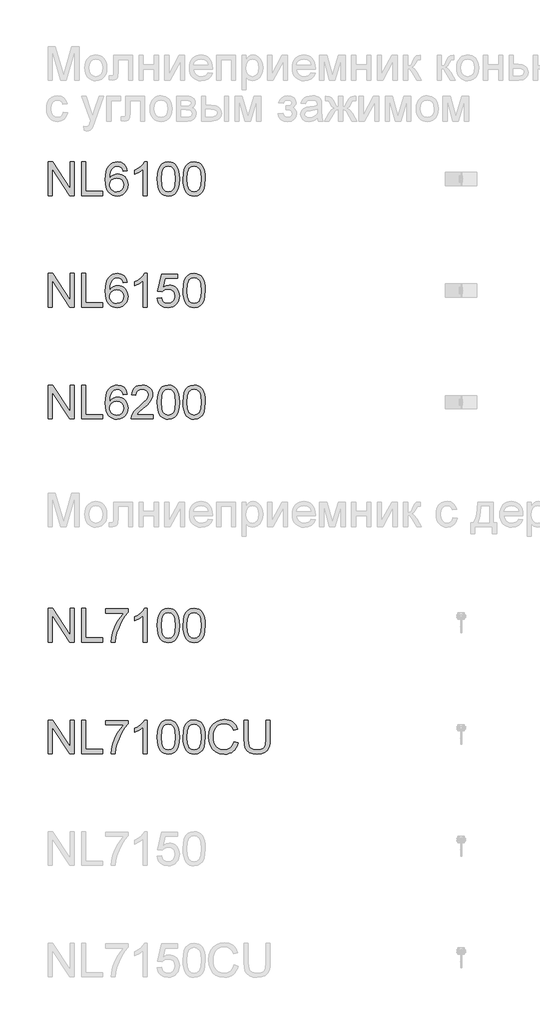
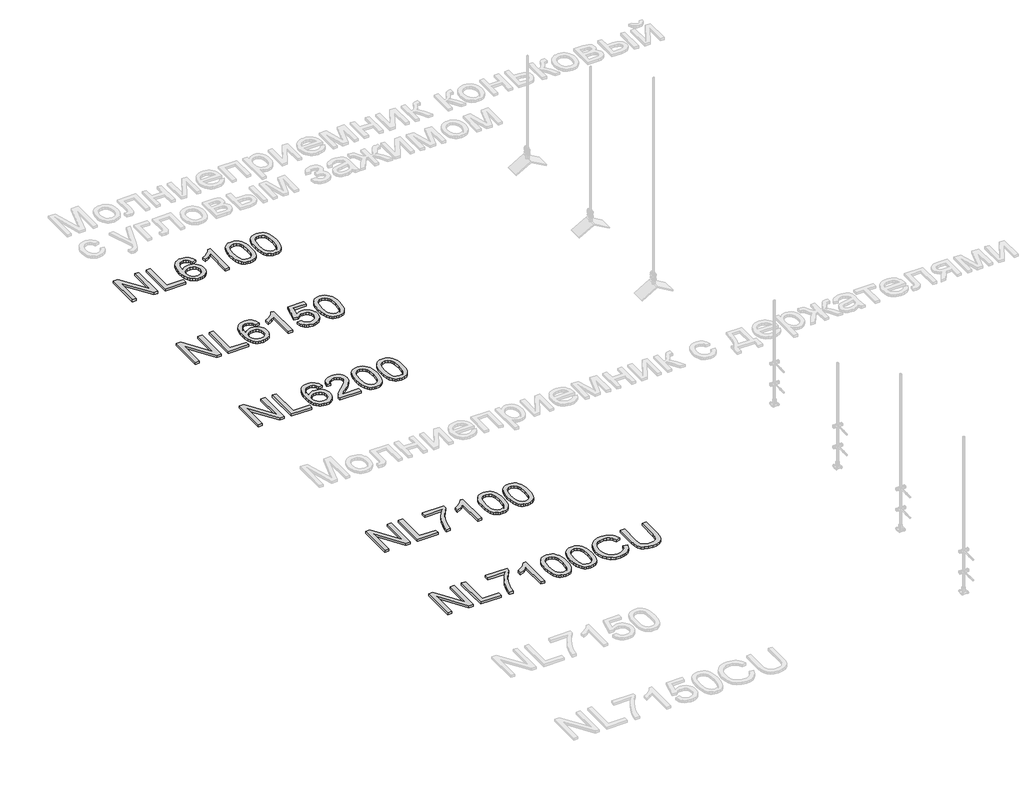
# One storey, part 67 of 124: 5 proxies.
"""IFC4 building model written with IfcOpenShell, lengths in millimetres."""

import ifcopenshell
import ifcopenshell.guid

model = None  # the IFC model being written
_history = None  # IfcOwnerHistory: only IFC2X3 demands one
_inside = {}  # id of a spatial element -> (the spatial element, [elements in it])
_under = {}  # id of a project, library or spatial element -> (it, [spatial elements below it])
_declared = {}  # id of a project -> (the project, [libraries it declares])
_typed = {}  # id of a type object -> (the type object, [elements of that type])
_made_of = {}  # id of a material, layer set ... -> (it, [elements and type objects made of it])


def new_model(schema):
    """Start an empty IFC model of exactly this schema.

    Asked for "IFC4X3", IfcOpenShell would pick the latest addendum, in which some entities
    have other attributes; the version numbers below select the first issue.
    IFC2X3 requires an IfcOwnerHistory on every rooted entity: one is made here for all.
    """
    global model, _history
    if schema == "IFC4X3":
        model = ifcopenshell.file(schema_version=(4, 3, 0, 0))
    else:
        model = ifcopenshell.file(schema=schema)
    _inside.clear()
    _under.clear()
    _declared.clear()
    _typed.clear()
    _made_of.clear()
    _history = None
    if model.schema == "IFC2X3":
        org = make("IfcOrganization", Name="unknown")
        user = make(
            "IfcPersonAndOrganization",
            ThePerson=make("IfcPerson", FamilyName="unknown"),
            TheOrganization=org,
        )
        app = make(
            "IfcApplication",
            ApplicationDeveloper=org,
            Version="unknown",
            ApplicationFullName="unknown",
            ApplicationIdentifier="unknown",
        )
        _history = make(
            "IfcOwnerHistory",
            OwningUser=user,
            OwningApplication=app,
            ChangeAction="ADDED",
            CreationDate=0,
        )
    return model


def make(cls, **values):
    """One entity of the class cls with the attributes given. An attribute that is None is left unset."""
    return model.create_entity(
        cls, **{name: value for name, value in values.items() if value is not None}
    )


def rooted(cls, **values):
    """An entity with a GlobalId (a new one), such as an element, a storey or a relation."""
    return make(cls, GlobalId=ifcopenshell.guid.new(), OwnerHistory=_history, **values)


def si_unit(unit_type, name, prefix=None):
    """IfcSIUnit, for example si_unit("LENGTHUNIT", "METRE", prefix="MILLI")."""
    return make("IfcSIUnit", UnitType=unit_type, Prefix=prefix, Name=name)


def assignment(units):
    """IfcUnitAssignment: the units of a project."""
    return None if units is None else make("IfcUnitAssignment", Units=units)


def point(xyz):
    """IfcCartesianPoint."""
    return None if xyz is None else make("IfcCartesianPoint", Coordinates=xyz)


def direction(xyz):
    """IfcDirection."""
    return None if xyz is None else make("IfcDirection", DirectionRatios=xyz)


def frame(location, z_axis=None, x_axis=None):
    """IfcAxis2Placement3D, a coordinate frame: its origin and axes. An axis left out is left unset."""
    return make(
        "IfcAxis2Placement3D",
        Location=point(location),
        Axis=direction(z_axis),
        RefDirection=direction(x_axis),
    )


def origin():
    """The frame at (0, 0, 0) with its axes left unset."""
    return frame((0.0, 0.0, 0.0))


def origin_with_axes():
    """The frame at (0, 0, 0) with the z axis (0, 0, 1) and the x axis (1, 0, 0) written out."""
    return frame((0.0, 0.0, 0.0), z_axis=(0.0, 0.0, 1.0), x_axis=(1.0, 0.0, 0.0))


def place(relative_to, where):
    """IfcLocalPlacement: puts the frame where relative to a parent placement (None: the world)."""
    return make(
        "IfcLocalPlacement", PlacementRelTo=relative_to, RelativePlacement=where
    )


def context(
    kind, dimensions, precision=None, world=None, true_north=None, identifier=None
):
    """IfcGeometricRepresentationContext, for example the 3D "Model" context."""
    return make(
        "IfcGeometricRepresentationContext",
        ContextIdentifier=identifier,
        ContextType=kind,
        CoordinateSpaceDimension=dimensions,
        Precision=precision,
        WorldCoordinateSystem=world,
        TrueNorth=true_north,
    )


def project(units=None, contexts=None):
    """IfcProject with its units and contexts."""
    return rooted(
        "IfcProject",
        Name="project",
        RepresentationContexts=contexts,
        UnitsInContext=assignment(units),
    )


def spatial(cls, under=None, at=None, **own):
    """A site, building, storey or space (cls), placed at a placement, below another one or the project."""
    s = rooted(cls, ObjectPlacement=at, **own)
    if under is not None:
        _under.setdefault(under.id(), (under, []))[1].append(s)
    return s


def polyline(points):
    """IfcPolyline through the points."""
    return make("IfcPolyline", Points=[point(p) for p in points])


def outline(outer, holes=None, kind="AREA"):
    """IfcArbitraryClosedProfileDef: a profile drawn as a closed curve; with holes, ...WithVoids."""
    if holes is None:
        return make("IfcArbitraryClosedProfileDef", ProfileType=kind, OuterCurve=outer)
    return make(
        "IfcArbitraryProfileDefWithVoids",
        ProfileType=kind,
        OuterCurve=outer,
        InnerCurves=holes,
    )


def extrude(swept, where, along, depth):
    """IfcExtrudedAreaSolid: the profile swept, set in the frame where, extruded along a direction by depth."""
    return make(
        "IfcExtrudedAreaSolid",
        SweptArea=swept,
        Position=where,
        ExtrudedDirection=direction(along),
        Depth=depth,
    )


def shape(context_of_items, identifier, shape_type, items):
    """IfcShapeRepresentation: the items that make up one representation, for example the "Body"."""
    return make(
        "IfcShapeRepresentation",
        ContextOfItems=context_of_items,
        RepresentationIdentifier=identifier,
        RepresentationType=shape_type,
        Items=items,
    )


def made_of(thing, what):
    """Note that an element or type object is made of a material, layer set ...; save() writes the relation."""
    if what is not None:
        _made_of.setdefault(what.id(), (what, []))[1].append(thing)
    return thing


def element(
    cls,
    number,
    at=None,
    inside=None,
    cuts=None,
    type_object=None,
    material=None,
    context=None,
    identifier="Body",
    shape_type=None,
    held_by="IfcProductDefinitionShape",
    body=None,
    shapes=None,
    **own,
):
    """One element of the class cls, such as IfcWall. Its Tag is "e" and its number.

    at: its placement. inside: the storey or other place that contains it. cuts: it is an
    opening in that element (IfcRelVoidsElement). A single representation is given by context,
    identifier, shape_type and body (its items); several are given by shapes. held_by: the class
    of the entity that holds the representations. save() writes the other relations.
    """
    e = rooted(cls, Tag="e%d" % number, ObjectPlacement=at, **own)
    if body is not None:
        shapes = [shape(context, identifier, shape_type, body)]
    if shapes is not None:
        e.Representation = make(held_by, Representations=shapes)
    if inside is not None:
        _inside.setdefault(inside.id(), (inside, []))[1].append(e)
    if cuts is not None:
        rooted(
            "IfcRelVoidsElement", RelatingBuildingElement=cuts, RelatedOpeningElement=e
        )
    if type_object is not None:
        _typed.setdefault(type_object.id(), (type_object, []))[1].append(e)
    return made_of(e, material)


def aggregate(whole, parts):
    """IfcRelAggregates: a whole, such as a stair, and the parts it consists of."""
    return rooted("IfcRelAggregates", RelatingObject=whole, RelatedObjects=parts)


def save(model, path):
    """Write the relations noted so far, then the file.

    IfcRelAggregates (storeys below a building ...), IfcRelContainedInSpatialStructure (elements
    in a storey), IfcRelDefinesByType, IfcRelAssociatesMaterial and IfcRelDeclares: one each for
    every whole, place, type object, material and project.
    """
    for whole, parts in _under.values():
        aggregate(whole, parts)
    for where, things in _inside.values():
        rooted(
            "IfcRelContainedInSpatialStructure",
            RelatedElements=things,
            RelatingStructure=where,
        )
    for kind, things in _typed.values():
        rooted("IfcRelDefinesByType", RelatedObjects=things, RelatingType=kind)
    for what, things in _made_of.values():
        rooted("IfcRelAssociatesMaterial", RelatedObjects=things, RelatingMaterial=what)
    for by, libraries in _declared.values():
        rooted("IfcRelDeclares", RelatingContext=by, RelatedDefinitions=libraries)
    model.write(path)


model = new_model("IFC4")

# Units and contexts
model_context = context("Model", 3, world=origin())
ifc_project = project(units=[si_unit("LENGTHUNIT", "METRE", prefix="MILLI")], contexts=[model_context])

# Site, building, storey
site = spatial("IfcSite", under=ifc_project)
building = spatial("IfcBuilding", under=site)
storey = spatial("IfcBuildingStorey", under=building, Name="Этаж 01", Elevation=0.0)

# Proxies
placement = place(None, origin())
element("IfcBuildingElementProxy", 1, Name="300", ObjectType="300", at=placement, inside=storey, context=model_context, shape_type="SweptSolid", body=[
    extrude(outline(polyline([(22499.8220677, -52107.4605888), (22499.8220677, -51806.0916583), (22540.1419344, -51806.0916583), (22697.5954283, -52044.8470732), (22697.5954283, -51806.0916583), (22735.2665446, -51806.0916583), (22735.2665446, -52107.4605888), (22694.9466779, -52107.4605888), (22537.493184, -51868.6315975), (22537.493184, -52107.4605888), (22499.8220677, -52107.4605888)])), origin_with_axes(), (0.0, 0.0, 1.0), 20.0),
    extrude(outline(polyline([(22801.1909981, -52107.4605888), (22801.1909981, -51806.0916583), (22838.8621144, -51806.0916583), (22838.8621144, -52069.7894725), (22989.5465797, -52069.7894725), (22989.5465797, -52107.4605888), (22801.1909981, -52107.4605888)])), origin_with_axes(), (0.0, 0.0, 1.0), 20.0),
    extrude(outline(polyline([(23210.864388, -51886.1427805), (23173.1932717, -51890.85167), (23167.1232187, -51872.1816588), (23158.9194503, -51859.4345476), (23141.8313316, -51847.6807179), (23121.1747575, -51843.7627746), (23103.6635746, -51846.043643), (23087.1824612, -51852.8862481), (23073.0282014, -51867.2980253), (23061.4675097, -51887.1360619), (23053.6592144, -51915.196261), (23050.7621437, -51954.274526), (23065.8728966, -51936.6437814), (23083.9818878, -51924.218567), (23104.0774418, -51916.85173), (23125.1478831, -51914.3961177), (23143.2476773, -51916.0745793), (23159.9495198, -51921.1099641), (23175.2534108, -51929.5022721), (23189.1593503, -51941.2515033), (23200.7154434, -51955.658682), (23208.9697957, -51972.0248322), (23213.9224071, -51990.3499541), (23215.5732775, -52010.6340476), (23212.4646747, -52037.6089949), (23203.1388661, -52062.6157736), (23188.368404, -52083.8241706), (23168.9258405, -52099.4039731), (23145.6940925, -52108.978102), (23119.5560768, -52112.1694783), (23097.0991802, -52110.0541568), (23076.817386, -52103.7081924), (23058.710694, -52093.1315851), (23042.7791044, -52078.3243348), (23029.7905707, -52058.6610421), (23020.5130466, -52033.5163077), (23014.9465322, -52002.8901316), (23013.0910274, -51966.7825138), (23015.1511665, -51926.3016988), (23021.3315841, -51891.7529809), (23031.6322799, -51863.1363602), (23046.0532541, -51840.4518367), (23061.6836404, -51825.4192586), (23079.8064272, -51814.6817029), (23100.4216145, -51808.2391695), (23123.5292023, -51806.0916583), (23156.5833996, -51811.4075532), (23183.0525091, -51827.3552376), (23201.5937617, -51852.683913), (23210.864388, -51886.1427805)]), holes=[polyline([(23050.7621437, -52010.0454364), (23052.9418445, -52026.738082), (23059.480947, -52042.6765694), (23069.63449, -52056.3801737), (23082.6575127, -52066.3681699), (23098.3752709, -52072.465814), (23116.6130208, -52074.498362), (23141.4726466, -52070.2861132), (23161.0163776, -52057.6493666), (23173.6807153, -52037.7837389), (23177.9021612, -52011.8848464), (23173.7358976, -51987.0252206), (23161.2371068, -51968.0701008), (23141.362282, -51956.0679507), (23115.0679164, -51952.067234), (23090.2450788, -51956.0679507), (23069.4873372, -51968.0701008), (23055.4434421, -51986.5653681), (23050.7621437, -52010.0454364)])]), origin_with_axes(), (0.0, 0.0, 1.0), 20.0),
    extrude(outline(polyline([(23389.8021904, -52107.4605888), (23352.1310741, -52107.4605888), (23352.1310741, -51872.604723), (23316.4465206, -51898.0253689), (23276.7888415, -51917.0448681), (23276.7888415, -51881.4338909), (23306.375751, -51865.3390536), (23332.007929, -51846.1907958), (23352.2138476, -51825.8285274), (23365.5219787, -51806.0916583), (23389.8021904, -51806.0916583), (23389.8021904, -52107.4605888)])), origin_with_axes(), (0.0, 0.0, 1.0), 20.0),
    extrude(outline(polyline([(23479.2710917, -51959.2041447), (23482.0394037, -51910.9656181), (23490.3443397, -51872.4943585), (23504.1031263, -51843.2017546), (23523.2329901, -51822.4991953), (23547.8718867, -51810.1935426), (23578.157772, -51806.0916583), (23601.3711259, -51808.5196795), (23622.1564586, -51815.803743), (23639.5388829, -51827.6587403), (23652.5435114, -51843.7995628), (23662.3659607, -51864.0882549), (23670.2018471, -51888.3868606), (23675.333801, -51919.242963), (23677.0444523, -51959.2041447), (23674.3037314, -52007.1667598), (23666.0815688, -52045.546049), (23652.4055556, -52074.866244), (23633.303283, -52095.6515767), (23608.6092041, -52108.0400029), (23578.157772, -52112.1694783), (23557.4092274, -52110.3760536), (23539.0151277, -52104.9957794), (23522.9754727, -52096.0286558), (23509.2902625, -52083.4746827), (23496.1568752, -52060.7809621), (23486.7758844, -52032.5046323), (23481.1472898, -51998.6456931), (23479.2710917, -51959.2041447)]), holes=[polyline([(23516.942208, -51959.1305683), (23521.3567919, -52018.3871607), (23526.8750218, -52038.6551594), (23534.6005437, -52052.6829597), (23554.3190187, -52069.0445114), (23578.157772, -52074.498362), (23601.9965252, -52069.0261173), (23621.7150002, -52052.6093833), (23629.4405221, -52038.5585903), (23634.958752, -52018.2951902), (23639.373336, -51959.1305683), (23635.1059048, -51901.2075482), (23629.7716159, -51881.0062281), (23622.3036114, -51866.6450347), (23602.6219246, -51849.4833397), (23577.7163136, -51843.7627746), (23554.1350777, -51848.802758), (23535.1891549, -51863.922708), (23527.2061156, -51879.5576928), (23521.5039447, -51900.6373311), (23516.942208, -51959.1305683)])]), origin_with_axes(), (0.0, 0.0, 1.0), 20.0),
    extrude(outline(polyline([(23710.006679, -51959.2041447), (23712.774991, -51910.9656181), (23721.0799271, -51872.4943585), (23734.8387137, -51843.2017546), (23753.9685775, -51822.4991953), (23778.6074741, -51810.1935426), (23808.8933593, -51806.0916583), (23832.1067132, -51808.5196795), (23852.892046, -51815.803743), (23870.2744702, -51827.6587403), (23883.2790988, -51843.7995628), (23893.101548, -51864.0882549), (23900.9374345, -51888.3868606), (23906.0693884, -51919.242963), (23907.7800396, -51959.2041447), (23905.0393188, -52007.1667598), (23896.8171562, -52045.546049), (23883.141143, -52074.866244), (23864.0388704, -52095.6515767), (23839.3447915, -52108.0400029), (23808.8933593, -52112.1694783), (23788.1448148, -52110.3760536), (23769.750715, -52104.9957794), (23753.7110601, -52096.0286558), (23740.0258498, -52083.4746827), (23726.8924626, -52060.7809621), (23717.5114717, -52032.5046323), (23711.8828772, -51998.6456931), (23710.006679, -51959.2041447)]), holes=[polyline([(23747.6777953, -51959.1305683), (23752.0923793, -52018.3871607), (23757.6106092, -52038.6551594), (23765.3361311, -52052.6829597), (23785.054606, -52069.0445114), (23808.8933593, -52074.498362), (23832.7321126, -52069.0261173), (23852.4505876, -52052.6093833), (23860.1761095, -52038.5585903), (23865.6943394, -52018.2951902), (23870.1089233, -51959.1305683), (23865.8414922, -51901.2075482), (23860.5072033, -51881.0062281), (23853.0391988, -51866.6450347), (23833.357512, -51849.4833397), (23808.4519009, -51843.7627746), (23784.870665, -51848.802758), (23765.9247423, -51863.922708), (23757.941703, -51879.5576928), (23752.2395321, -51900.6373311), (23747.6777953, -51959.1305683)])]), origin_with_axes(), (0.0, 0.0, 1.0), 20.0),
])
element("IfcBuildingElementProxy", 2, Name="300", ObjectType="300", at=placement, inside=storey, context=model_context, shape_type="SweptSolid", body=[
    extrude(outline(polyline([(22499.8220677, -53107.4605888), (22499.8220677, -52806.0916583), (22540.1419344, -52806.0916583), (22697.5954283, -53044.8470732), (22697.5954283, -52806.0916583), (22735.2665446, -52806.0916583), (22735.2665446, -53107.4605888), (22694.9466779, -53107.4605888), (22537.493184, -52868.6315975), (22537.493184, -53107.4605888), (22499.8220677, -53107.4605888)])), origin_with_axes(), (0.0, 0.0, 1.0), 20.0),
    extrude(outline(polyline([(22801.1909981, -53107.4605888), (22801.1909981, -52806.0916583), (22838.8621144, -52806.0916583), (22838.8621144, -53069.7894725), (22989.5465797, -53069.7894725), (22989.5465797, -53107.4605888), (22801.1909981, -53107.4605888)])), origin_with_axes(), (0.0, 0.0, 1.0), 20.0),
    extrude(outline(polyline([(23210.864388, -52886.1427805), (23173.1932717, -52890.85167), (23167.1232187, -52872.1816588), (23158.9194503, -52859.4345476), (23141.8313316, -52847.6807179), (23121.1747575, -52843.7627746), (23103.6635746, -52846.043643), (23087.1824612, -52852.8862481), (23073.0282014, -52867.2980253), (23061.4675097, -52887.1360619), (23053.6592144, -52915.196261), (23050.7621437, -52954.274526), (23065.8728966, -52936.6437814), (23083.9818878, -52924.218567), (23104.0774418, -52916.85173), (23125.1478831, -52914.3961177), (23143.2476773, -52916.0745793), (23159.9495198, -52921.1099641), (23175.2534108, -52929.5022721), (23189.1593503, -52941.2515033), (23200.7154434, -52955.658682), (23208.9697957, -52972.0248322), (23213.9224071, -52990.3499541), (23215.5732775, -53010.6340476), (23212.4646747, -53037.6089949), (23203.1388661, -53062.6157736), (23188.368404, -53083.8241706), (23168.9258405, -53099.4039731), (23145.6940925, -53108.978102), (23119.5560768, -53112.1694783), (23097.0991802, -53110.0541568), (23076.817386, -53103.7081924), (23058.710694, -53093.1315851), (23042.7791044, -53078.3243348), (23029.7905707, -53058.6610421), (23020.5130466, -53033.5163077), (23014.9465322, -53002.8901316), (23013.0910274, -52966.7825138), (23015.1511665, -52926.3016988), (23021.3315841, -52891.7529809), (23031.6322799, -52863.1363602), (23046.0532541, -52840.4518367), (23061.6836404, -52825.4192586), (23079.8064272, -52814.6817029), (23100.4216145, -52808.2391695), (23123.5292023, -52806.0916583), (23156.5833996, -52811.4075532), (23183.0525091, -52827.3552376), (23201.5937617, -52852.683913), (23210.864388, -52886.1427805)]), holes=[polyline([(23050.7621437, -53010.0454364), (23052.9418445, -53026.738082), (23059.480947, -53042.6765694), (23069.63449, -53056.3801737), (23082.6575127, -53066.3681699), (23098.3752709, -53072.465814), (23116.6130208, -53074.498362), (23141.4726466, -53070.2861132), (23161.0163776, -53057.6493666), (23173.6807153, -53037.7837389), (23177.9021612, -53011.8848464), (23173.7358976, -52987.0252206), (23161.2371068, -52968.0701008), (23141.362282, -52956.0679507), (23115.0679164, -52952.067234), (23090.2450788, -52956.0679507), (23069.4873372, -52968.0701008), (23055.4434421, -52986.5653681), (23050.7621437, -53010.0454364)])]), origin_with_axes(), (0.0, 0.0, 1.0), 20.0),
    extrude(outline(polyline([(23389.8021904, -53107.4605888), (23352.1310741, -53107.4605888), (23352.1310741, -52872.604723), (23316.4465206, -52898.0253689), (23276.7888415, -52917.0448681), (23276.7888415, -52881.4338909), (23306.375751, -52865.3390536), (23332.007929, -52846.1907958), (23352.2138476, -52825.8285274), (23365.5219787, -52806.0916583), (23389.8021904, -52806.0916583), (23389.8021904, -53107.4605888)])), origin_with_axes(), (0.0, 0.0, 1.0), 20.0),
    extrude(outline(polyline([(23479.2710917, -53027.4094666), (23516.942208, -53022.7005771), (23523.8583895, -53045.3161227), (23535.9249189, -53061.5121276), (23553.086614, -53071.2518034), (23575.2882924, -53074.498362), (23602.2908308, -53069.9826105), (23622.5243406, -53056.435356), (23635.1610871, -53035.4200971), (23639.373336, -53008.5003321), (23635.4278016, -52983.1532626), (23623.5911984, -52963.7658815), (23603.7715559, -52951.4602287), (23575.8769036, -52947.3583445), (23557.6023655, -52948.9954193), (23542.8043122, -52953.906644), (23521.6510975, -52970.9027922), (23483.9799812, -52966.1939026), (23516.942208, -52810.8005479), (23662.9177836, -52810.8005479), (23662.9177836, -52848.4716642), (23547.4028372, -52848.4716642), (23531.2896058, -52931.4658423), (23558.2001737, -52915.1318817), (23586.3983286, -52909.6872282), (23604.7441439, -52911.3748868), (23621.5954385, -52916.4378628), (23636.9522126, -52924.876156), (23650.814466, -52936.6897666), (23662.290085, -52951.1567261), (23670.4869557, -52967.555066), (23675.4050781, -52985.8847864), (23677.0444523, -53006.1458873), (23671.1399462, -53043.8170036), (23663.7593137, -53060.6108167), (23653.4264282, -53076.0434664), (23637.7730493, -53091.8485966), (23619.5077082, -53103.1379753), (23598.630405, -53109.9116026), (23575.1411396, -53112.1694783), (23538.1414079, -53106.3661398), (23522.4627371, -53099.1119667), (23508.6648631, -53088.9561244), (23497.1846456, -53076.4044506), (23488.4589445, -53061.962783), (23479.2710917, -53027.4094666)])), origin_with_axes(), (0.0, 0.0, 1.0), 20.0),
    extrude(outline(polyline([(23710.006679, -52959.2041447), (23712.774991, -52910.9656181), (23721.0799271, -52872.4943585), (23734.8387137, -52843.2017546), (23753.9685775, -52822.4991953), (23778.6074741, -52810.1935426), (23808.8933593, -52806.0916583), (23832.1067132, -52808.5196795), (23852.892046, -52815.803743), (23870.2744702, -52827.6587403), (23883.2790988, -52843.7995628), (23893.101548, -52864.0882549), (23900.9374345, -52888.3868606), (23906.0693884, -52919.242963), (23907.7800396, -52959.2041447), (23905.0393188, -53007.1667598), (23896.8171562, -53045.546049), (23883.141143, -53074.866244), (23864.0388704, -53095.6515767), (23839.3447915, -53108.0400029), (23808.8933593, -53112.1694783), (23788.1448148, -53110.3760536), (23769.750715, -53104.9957794), (23753.7110601, -53096.0286558), (23740.0258498, -53083.4746827), (23726.8924626, -53060.7809621), (23717.5114717, -53032.5046323), (23711.8828772, -52998.6456931), (23710.006679, -52959.2041447)]), holes=[polyline([(23747.6777953, -52959.1305683), (23752.0923793, -53018.3871607), (23757.6106092, -53038.6551594), (23765.3361311, -53052.6829597), (23785.054606, -53069.0445114), (23808.8933593, -53074.498362), (23832.7321126, -53069.0261173), (23852.4505876, -53052.6093833), (23860.1761095, -53038.5585903), (23865.6943394, -53018.2951902), (23870.1089233, -52959.1305683), (23865.8414922, -52901.2075482), (23860.5072033, -52881.0062281), (23853.0391988, -52866.6450347), (23833.357512, -52849.4833397), (23808.4519009, -52843.7627746), (23784.870665, -52848.802758), (23765.9247423, -52863.922708), (23757.941703, -52879.5576928), (23752.2395321, -52900.6373311), (23747.6777953, -52959.1305683)])]), origin_with_axes(), (0.0, 0.0, 1.0), 20.0),
])
element("IfcBuildingElementProxy", 3, Name="300", ObjectType="300", at=placement, inside=storey, context=model_context, shape_type="SweptSolid", body=[
    extrude(outline(polyline([(22499.8220677, -54107.4605888), (22499.8220677, -53806.0916583), (22540.1419344, -53806.0916583), (22697.5954283, -54044.8470732), (22697.5954283, -53806.0916583), (22735.2665446, -53806.0916583), (22735.2665446, -54107.4605888), (22694.9466779, -54107.4605888), (22537.493184, -53868.6315975), (22537.493184, -54107.4605888), (22499.8220677, -54107.4605888)])), origin_with_axes(), (0.0, 0.0, 1.0), 20.0),
    extrude(outline(polyline([(22801.1909981, -54107.4605888), (22801.1909981, -53806.0916583), (22838.8621144, -53806.0916583), (22838.8621144, -54069.7894725), (22989.5465797, -54069.7894725), (22989.5465797, -54107.4605888), (22801.1909981, -54107.4605888)])), origin_with_axes(), (0.0, 0.0, 1.0), 20.0),
    extrude(outline(polyline([(23210.864388, -53886.1427805), (23173.1932717, -53890.85167), (23167.1232187, -53872.1816588), (23158.9194503, -53859.4345476), (23141.8313316, -53847.6807179), (23121.1747575, -53843.7627746), (23103.6635746, -53846.043643), (23087.1824612, -53852.8862481), (23073.0282014, -53867.2980253), (23061.4675097, -53887.1360619), (23053.6592144, -53915.196261), (23050.7621437, -53954.274526), (23065.8728966, -53936.6437814), (23083.9818878, -53924.218567), (23104.0774418, -53916.85173), (23125.1478831, -53914.3961177), (23143.2476773, -53916.0745793), (23159.9495198, -53921.1099641), (23175.2534108, -53929.5022721), (23189.1593503, -53941.2515033), (23200.7154434, -53955.658682), (23208.9697957, -53972.0248322), (23213.9224071, -53990.3499541), (23215.5732775, -54010.6340476), (23212.4646747, -54037.6089949), (23203.1388661, -54062.6157736), (23188.368404, -54083.8241706), (23168.9258405, -54099.4039731), (23145.6940925, -54108.978102), (23119.5560768, -54112.1694783), (23097.0991802, -54110.0541568), (23076.817386, -54103.7081924), (23058.710694, -54093.1315851), (23042.7791044, -54078.3243348), (23029.7905707, -54058.6610421), (23020.5130466, -54033.5163077), (23014.9465322, -54002.8901316), (23013.0910274, -53966.7825138), (23015.1511665, -53926.3016988), (23021.3315841, -53891.7529809), (23031.6322799, -53863.1363602), (23046.0532541, -53840.4518367), (23061.6836404, -53825.4192586), (23079.8064272, -53814.6817029), (23100.4216145, -53808.2391695), (23123.5292023, -53806.0916583), (23156.5833996, -53811.4075532), (23183.0525091, -53827.3552376), (23201.5937617, -53852.683913), (23210.864388, -53886.1427805)]), holes=[polyline([(23050.7621437, -54010.0454364), (23052.9418445, -54026.738082), (23059.480947, -54042.6765694), (23069.63449, -54056.3801737), (23082.6575127, -54066.3681699), (23098.3752709, -54072.465814), (23116.6130208, -54074.498362), (23141.4726466, -54070.2861132), (23161.0163776, -54057.6493666), (23173.6807153, -54037.7837389), (23177.9021612, -54011.8848464), (23173.7358976, -53987.0252206), (23161.2371068, -53968.0701008), (23141.362282, -53956.0679507), (23115.0679164, -53952.067234), (23090.2450788, -53956.0679507), (23069.4873372, -53968.0701008), (23055.4434421, -53986.5653681), (23050.7621437, -54010.0454364)])]), origin_with_axes(), (0.0, 0.0, 1.0), 20.0),
    extrude(outline(polyline([(23441.5999753, -54069.7894725), (23441.5999753, -54107.4605888), (23243.8266147, -54107.4605888), (23247.8733167, -54081.4881199), (23257.1623371, -54061.1902308), (23270.7555768, -54041.499347), (23290.4188694, -54020.8887583), (23317.9180486, -53997.8317542), (23358.569009, -53961.7241364), (23382.9595853, -53935.0710858), (23395.1548735, -53913.4396245), (23399.2199695, -53892.3967744), (23395.3847997, -53873.5336251), (23383.8792903, -53857.852655), (23366.1933634, -53847.2852447), (23343.816941, -53843.7627746), (23320.3184786, -53847.2024713), (23302.0623346, -53857.5215612), (23290.2809137, -53873.9107041), (23286.2066206, -53895.5605595), (23248.5355043, -53890.85167), (23257.6681748, -53854.4129584), (23266.2145334, -53839.8770211), (23277.4142409, -53827.796696), (23291.0097799, -53818.300742), (23306.743633, -53811.5179177), (23344.6262814, -53806.0916583), (23364.8161052, -53807.5999745), (23382.7848414, -53812.124923), (23398.53249, -53819.6665039), (23412.0590511, -53830.2247172), (23422.9230663, -53843.0178136), (23430.6830771, -53857.2640439), (23435.3390836, -53872.963408), (23436.8910858, -53890.115906), (23435.2172227, -53908.1329267), (23430.1956335, -53925.8372478), (23421.2836922, -53943.8450714), (23407.9387728, -53962.7726001), (23386.6659964, -53985.3697516), (23353.9704841, -54014.386444), (23310.6339851, -54050.6228205), (23293.6378369, -54069.7894725), (23441.5999753, -54069.7894725)])), origin_with_axes(), (0.0, 0.0, 1.0), 20.0),
    extrude(outline(polyline([(23479.2710917, -53959.2041447), (23482.0394037, -53910.9656181), (23490.3443397, -53872.4943585), (23504.1031263, -53843.2017546), (23523.2329901, -53822.4991953), (23547.8718867, -53810.1935426), (23578.157772, -53806.0916583), (23601.3711259, -53808.5196795), (23622.1564586, -53815.803743), (23639.5388829, -53827.6587403), (23652.5435114, -53843.7995628), (23662.3659607, -53864.0882549), (23670.2018471, -53888.3868606), (23675.333801, -53919.242963), (23677.0444523, -53959.2041447), (23674.3037314, -54007.1667598), (23666.0815688, -54045.546049), (23652.4055556, -54074.866244), (23633.303283, -54095.6515767), (23608.6092041, -54108.0400029), (23578.157772, -54112.1694783), (23557.4092274, -54110.3760536), (23539.0151277, -54104.9957794), (23522.9754727, -54096.0286558), (23509.2902625, -54083.4746827), (23496.1568752, -54060.7809621), (23486.7758844, -54032.5046323), (23481.1472898, -53998.6456931), (23479.2710917, -53959.2041447)]), holes=[polyline([(23516.942208, -53959.1305683), (23521.3567919, -54018.3871607), (23526.8750218, -54038.6551594), (23534.6005437, -54052.6829597), (23554.3190187, -54069.0445114), (23578.157772, -54074.498362), (23601.9965252, -54069.0261173), (23621.7150002, -54052.6093833), (23629.4405221, -54038.5585903), (23634.958752, -54018.2951902), (23639.373336, -53959.1305683), (23635.1059048, -53901.2075482), (23629.7716159, -53881.0062281), (23622.3036114, -53866.6450347), (23602.6219246, -53849.4833397), (23577.7163136, -53843.7627746), (23554.1350777, -53848.802758), (23535.1891549, -53863.922708), (23527.2061156, -53879.5576928), (23521.5039447, -53900.6373311), (23516.942208, -53959.1305683)])]), origin_with_axes(), (0.0, 0.0, 1.0), 20.0),
    extrude(outline(polyline([(23710.006679, -53959.2041447), (23712.774991, -53910.9656181), (23721.0799271, -53872.4943585), (23734.8387137, -53843.2017546), (23753.9685775, -53822.4991953), (23778.6074741, -53810.1935426), (23808.8933593, -53806.0916583), (23832.1067132, -53808.5196795), (23852.892046, -53815.803743), (23870.2744702, -53827.6587403), (23883.2790988, -53843.7995628), (23893.101548, -53864.0882549), (23900.9374345, -53888.3868606), (23906.0693884, -53919.242963), (23907.7800396, -53959.2041447), (23905.0393188, -54007.1667598), (23896.8171562, -54045.546049), (23883.141143, -54074.866244), (23864.0388704, -54095.6515767), (23839.3447915, -54108.0400029), (23808.8933593, -54112.1694783), (23788.1448148, -54110.3760536), (23769.750715, -54104.9957794), (23753.7110601, -54096.0286558), (23740.0258498, -54083.4746827), (23726.8924626, -54060.7809621), (23717.5114717, -54032.5046323), (23711.8828772, -53998.6456931), (23710.006679, -53959.2041447)]), holes=[polyline([(23747.6777953, -53959.1305683), (23752.0923793, -54018.3871607), (23757.6106092, -54038.6551594), (23765.3361311, -54052.6829597), (23785.054606, -54069.0445114), (23808.8933593, -54074.498362), (23832.7321126, -54069.0261173), (23852.4505876, -54052.6093833), (23860.1761095, -54038.5585903), (23865.6943394, -54018.2951902), (23870.1089233, -53959.1305683), (23865.8414922, -53901.2075482), (23860.5072033, -53881.0062281), (23853.0391988, -53866.6450347), (23833.357512, -53849.4833397), (23808.4519009, -53843.7627746), (23784.870665, -53848.802758), (23765.9247423, -53863.922708), (23757.941703, -53879.5576928), (23752.2395321, -53900.6373311), (23747.6777953, -53959.1305683)])]), origin_with_axes(), (0.0, 0.0, 1.0), 20.0),
])
element("IfcBuildingElementProxy", 4, Name="300", ObjectType="300", at=placement, inside=storey, context=model_context, shape_type="SweptSolid", body=[
    extrude(outline(polyline([(22499.8220677, -56107.4605888), (22499.8220677, -55806.0916583), (22540.1419344, -55806.0916583), (22697.5954283, -56044.8470732), (22697.5954283, -55806.0916583), (22735.2665446, -55806.0916583), (22735.2665446, -56107.4605888), (22694.9466779, -56107.4605888), (22537.493184, -55868.6315975), (22537.493184, -56107.4605888), (22499.8220677, -56107.4605888)])), origin_with_axes(), (0.0, 0.0, 1.0), 20.0),
    extrude(outline(polyline([(22801.1909981, -56107.4605888), (22801.1909981, -55806.0916583), (22838.8621144, -55806.0916583), (22838.8621144, -56069.7894725), (22989.5465797, -56069.7894725), (22989.5465797, -56107.4605888), (22801.1909981, -56107.4605888)])), origin_with_axes(), (0.0, 0.0, 1.0), 20.0),
    extrude(outline(polyline([(23017.7999169, -55848.4716642), (23017.7999169, -55810.8005479), (23215.5732775, -55810.8005479), (23215.5732775, -55841.2611771), (23187.3843196, -55876.9365335), (23159.4712732, -55922.3055806), (23134.8507707, -55973.2296458), (23116.5394444, -56025.5700566), (23107.5631237, -56064.731095), (23102.5599286, -56107.4605888), (23064.8888123, -56107.4605888), (23068.9631054, -56068.6306442), (23079.8616095, -56022.4798479), (23097.290019, -55973.5607396), (23120.9540284, -55926.4258589), (23148.5819662, -55883.8159269), (23177.9021612, -55848.4716642), (23017.7999169, -55848.4716642)])), origin_with_axes(), (0.0, 0.0, 1.0), 20.0),
    extrude(outline(polyline([(23389.8021904, -56107.4605888), (23352.1310741, -56107.4605888), (23352.1310741, -55872.604723), (23316.4465206, -55898.0253689), (23276.7888415, -55917.0448681), (23276.7888415, -55881.4338909), (23306.375751, -55865.3390536), (23332.007929, -55846.1907958), (23352.2138476, -55825.8285274), (23365.5219787, -55806.0916583), (23389.8021904, -55806.0916583), (23389.8021904, -56107.4605888)])), origin_with_axes(), (0.0, 0.0, 1.0), 20.0),
    extrude(outline(polyline([(23479.2710917, -55959.2041447), (23482.0394037, -55910.9656181), (23490.3443397, -55872.4943585), (23504.1031263, -55843.2017546), (23523.2329901, -55822.4991953), (23547.8718867, -55810.1935426), (23578.157772, -55806.0916583), (23601.3711259, -55808.5196795), (23622.1564586, -55815.803743), (23639.5388829, -55827.6587403), (23652.5435114, -55843.7995628), (23662.3659607, -55864.0882549), (23670.2018471, -55888.3868606), (23675.333801, -55919.242963), (23677.0444523, -55959.2041447), (23674.3037314, -56007.1667598), (23666.0815688, -56045.546049), (23652.4055556, -56074.866244), (23633.303283, -56095.6515767), (23608.6092041, -56108.0400029), (23578.157772, -56112.1694783), (23557.4092274, -56110.3760536), (23539.0151277, -56104.9957794), (23522.9754727, -56096.0286558), (23509.2902625, -56083.4746827), (23496.1568752, -56060.7809621), (23486.7758844, -56032.5046323), (23481.1472898, -55998.6456931), (23479.2710917, -55959.2041447)]), holes=[polyline([(23516.942208, -55959.1305683), (23521.3567919, -56018.3871607), (23526.8750218, -56038.6551594), (23534.6005437, -56052.6829597), (23554.3190187, -56069.0445114), (23578.157772, -56074.498362), (23601.9965252, -56069.0261173), (23621.7150002, -56052.6093833), (23629.4405221, -56038.5585903), (23634.958752, -56018.2951902), (23639.373336, -55959.1305683), (23635.1059048, -55901.2075482), (23629.7716159, -55881.0062281), (23622.3036114, -55866.6450347), (23602.6219246, -55849.4833397), (23577.7163136, -55843.7627746), (23554.1350777, -55848.802758), (23535.1891549, -55863.922708), (23527.2061156, -55879.5576928), (23521.5039447, -55900.6373311), (23516.942208, -55959.1305683)])]), origin_with_axes(), (0.0, 0.0, 1.0), 20.0),
    extrude(outline(polyline([(23710.006679, -55959.2041447), (23712.774991, -55910.9656181), (23721.0799271, -55872.4943585), (23734.8387137, -55843.2017546), (23753.9685775, -55822.4991953), (23778.6074741, -55810.1935426), (23808.8933593, -55806.0916583), (23832.1067132, -55808.5196795), (23852.892046, -55815.803743), (23870.2744702, -55827.6587403), (23883.2790988, -55843.7995628), (23893.101548, -55864.0882549), (23900.9374345, -55888.3868606), (23906.0693884, -55919.242963), (23907.7800396, -55959.2041447), (23905.0393188, -56007.1667598), (23896.8171562, -56045.546049), (23883.141143, -56074.866244), (23864.0388704, -56095.6515767), (23839.3447915, -56108.0400029), (23808.8933593, -56112.1694783), (23788.1448148, -56110.3760536), (23769.750715, -56104.9957794), (23753.7110601, -56096.0286558), (23740.0258498, -56083.4746827), (23726.8924626, -56060.7809621), (23717.5114717, -56032.5046323), (23711.8828772, -55998.6456931), (23710.006679, -55959.2041447)]), holes=[polyline([(23747.6777953, -55959.1305683), (23752.0923793, -56018.3871607), (23757.6106092, -56038.6551594), (23765.3361311, -56052.6829597), (23785.054606, -56069.0445114), (23808.8933593, -56074.498362), (23832.7321126, -56069.0261173), (23852.4505876, -56052.6093833), (23860.1761095, -56038.5585903), (23865.6943394, -56018.2951902), (23870.1089233, -55959.1305683), (23865.8414922, -55901.2075482), (23860.5072033, -55881.0062281), (23853.0391988, -55866.6450347), (23833.357512, -55849.4833397), (23808.4519009, -55843.7627746), (23784.870665, -55848.802758), (23765.9247423, -55863.922708), (23757.941703, -55879.5576928), (23752.2395321, -55900.6373311), (23747.6777953, -55959.1305683)])]), origin_with_axes(), (0.0, 0.0, 1.0), 20.0),
])
element("IfcBuildingElementProxy", 5, Name="300", ObjectType="300", at=placement, inside=storey, context=model_context, shape_type="SweptSolid", body=[
    extrude(outline(polyline([(22499.8220677, -57107.4605888), (22499.8220677, -56806.0916583), (22540.1419344, -56806.0916583), (22697.5954283, -57044.8470732), (22697.5954283, -56806.0916583), (22735.2665446, -56806.0916583), (22735.2665446, -57107.4605888), (22694.9466779, -57107.4605888), (22537.493184, -56868.6315975), (22537.493184, -57107.4605888), (22499.8220677, -57107.4605888)])), origin_with_axes(), (0.0, 0.0, 1.0), 20.0),
    extrude(outline(polyline([(22801.1909981, -57107.4605888), (22801.1909981, -56806.0916583), (22838.8621144, -56806.0916583), (22838.8621144, -57069.7894725), (22989.5465797, -57069.7894725), (22989.5465797, -57107.4605888), (22801.1909981, -57107.4605888)])), origin_with_axes(), (0.0, 0.0, 1.0), 20.0),
    extrude(outline(polyline([(23017.7999169, -56848.4716642), (23017.7999169, -56810.8005479), (23215.5732775, -56810.8005479), (23215.5732775, -56841.2611771), (23187.3843196, -56876.9365335), (23159.4712732, -56922.3055806), (23134.8507707, -56973.2296458), (23116.5394444, -57025.5700566), (23107.5631237, -57064.731095), (23102.5599286, -57107.4605888), (23064.8888123, -57107.4605888), (23068.9631054, -57068.6306442), (23079.8616095, -57022.4798479), (23097.290019, -56973.5607396), (23120.9540284, -56926.4258589), (23148.5819662, -56883.8159269), (23177.9021612, -56848.4716642), (23017.7999169, -56848.4716642)])), origin_with_axes(), (0.0, 0.0, 1.0), 20.0),
    extrude(outline(polyline([(23389.8021904, -57107.4605888), (23352.1310741, -57107.4605888), (23352.1310741, -56872.604723), (23316.4465206, -56898.0253689), (23276.7888415, -56917.0448681), (23276.7888415, -56881.4338909), (23306.375751, -56865.3390536), (23332.007929, -56846.1907958), (23352.2138476, -56825.8285274), (23365.5219787, -56806.0916583), (23389.8021904, -56806.0916583), (23389.8021904, -57107.4605888)])), origin_with_axes(), (0.0, 0.0, 1.0), 20.0),
    extrude(outline(polyline([(23479.2710917, -56959.2041447), (23482.0394037, -56910.9656181), (23490.3443397, -56872.4943585), (23504.1031263, -56843.2017546), (23523.2329901, -56822.4991953), (23547.8718867, -56810.1935426), (23578.157772, -56806.0916583), (23601.3711259, -56808.5196795), (23622.1564586, -56815.803743), (23639.5388829, -56827.6587403), (23652.5435114, -56843.7995628), (23662.3659607, -56864.0882549), (23670.2018471, -56888.3868606), (23675.333801, -56919.242963), (23677.0444523, -56959.2041447), (23674.3037314, -57007.1667598), (23666.0815688, -57045.546049), (23652.4055556, -57074.866244), (23633.303283, -57095.6515767), (23608.6092041, -57108.0400029), (23578.157772, -57112.1694783), (23557.4092274, -57110.3760536), (23539.0151277, -57104.9957794), (23522.9754727, -57096.0286558), (23509.2902625, -57083.4746827), (23496.1568752, -57060.7809621), (23486.7758844, -57032.5046323), (23481.1472898, -56998.6456931), (23479.2710917, -56959.2041447)]), holes=[polyline([(23516.942208, -56959.1305683), (23521.3567919, -57018.3871607), (23526.8750218, -57038.6551594), (23534.6005437, -57052.6829597), (23554.3190187, -57069.0445114), (23578.157772, -57074.498362), (23601.9965252, -57069.0261173), (23621.7150002, -57052.6093833), (23629.4405221, -57038.5585903), (23634.958752, -57018.2951902), (23639.373336, -56959.1305683), (23635.1059048, -56901.2075482), (23629.7716159, -56881.0062281), (23622.3036114, -56866.6450347), (23602.6219246, -56849.4833397), (23577.7163136, -56843.7627746), (23554.1350777, -56848.802758), (23535.1891549, -56863.922708), (23527.2061156, -56879.5576928), (23521.5039447, -56900.6373311), (23516.942208, -56959.1305683)])]), origin_with_axes(), (0.0, 0.0, 1.0), 20.0),
    extrude(outline(polyline([(23710.006679, -56959.2041447), (23712.774991, -56910.9656181), (23721.0799271, -56872.4943585), (23734.8387137, -56843.2017546), (23753.9685775, -56822.4991953), (23778.6074741, -56810.1935426), (23808.8933593, -56806.0916583), (23832.1067132, -56808.5196795), (23852.892046, -56815.803743), (23870.2744702, -56827.6587403), (23883.2790988, -56843.7995628), (23893.101548, -56864.0882549), (23900.9374345, -56888.3868606), (23906.0693884, -56919.242963), (23907.7800396, -56959.2041447), (23905.0393188, -57007.1667598), (23896.8171562, -57045.546049), (23883.141143, -57074.866244), (23864.0388704, -57095.6515767), (23839.3447915, -57108.0400029), (23808.8933593, -57112.1694783), (23788.1448148, -57110.3760536), (23769.750715, -57104.9957794), (23753.7110601, -57096.0286558), (23740.0258498, -57083.4746827), (23726.8924626, -57060.7809621), (23717.5114717, -57032.5046323), (23711.8828772, -56998.6456931), (23710.006679, -56959.2041447)]), holes=[polyline([(23747.6777953, -56959.1305683), (23752.0923793, -57018.3871607), (23757.6106092, -57038.6551594), (23765.3361311, -57052.6829597), (23785.054606, -57069.0445114), (23808.8933593, -57074.498362), (23832.7321126, -57069.0261173), (23852.4505876, -57052.6093833), (23860.1761095, -57038.5585903), (23865.6943394, -57018.2951902), (23870.1089233, -56959.1305683), (23865.8414922, -56901.2075482), (23860.5072033, -56881.0062281), (23853.0391988, -56866.6450347), (23833.357512, -56849.4833397), (23808.4519009, -56843.7627746), (23784.870665, -56848.802758), (23765.9247423, -56863.922708), (23757.941703, -56879.5576928), (23752.2395321, -56900.6373311), (23747.6777953, -56959.1305683)])]), origin_with_axes(), (0.0, 0.0, 1.0), 20.0),
    extrude(outline(polyline([(24166.7689642, -57000.3333518), (24204.4400805, -57010.0454364), (24196.9858716, -57033.4726218), (24187.0576563, -57053.9429555), (24174.6554345, -57071.4564378), (24159.7792063, -57086.0130685), (24142.7646641, -57097.4564978), (24123.9475, -57105.6303758), (24103.3277142, -57110.5347027), (24080.9053066, -57112.1694783), (24037.2101226, -57107.2214655), (24002.5096534, -57092.377427), (23975.9117851, -57068.1523976), (23956.524404, -57035.0614121), (23944.6878008, -56996.1578911), (23940.7422664, -56954.4952552), (23945.2028356, -56910.5517509), (23958.5845432, -56872.604723), (23980.1884133, -56841.8589853), (24009.3154703, -56819.5193511), (24043.8595897, -56805.9169144), (24081.714647, -56801.3827688), (24123.018598, -56807.2504866), (24140.9873342, -56814.5851339), (24157.1672442, -56824.8536401), (24171.2916135, -56837.7846922), (24183.0937278, -56853.1069773), (24199.731191, -56890.9252464), (24162.0600747, -56899.9015671), (24149.0002639, -56872.4299791), (24131.1579871, -56853.5852239), (24108.3125152, -56842.6867198), (24080.243119, -56839.0538851), (24047.8878975, -56843.0821929), (24021.3084233, -56855.1671165), (24001.139293, -56874.0394628), (23988.0151028, -56898.4300391), (23980.8138127, -56926.0027946), (23978.4133827, -56954.4216788), (23981.2552711, -56989.2233155), (23989.7809364, -57019.3160627), (24004.3122752, -57043.5502892), (24025.1711843, -57060.7763636), (24050.1779629, -57071.0678624), (24077.1529102, -57074.498362), (24108.5976238, -57069.8262607), (24134.8000189, -57055.8099566), (24154.5828731, -57032.5966028), (24166.7689642, -57000.3333518)])), origin_with_axes(), (0.0, 0.0, 1.0), 20.0),
    extrude(outline(polyline([(24454.0112261, -56806.0916583), (24491.6823424, -56806.0916583), (24491.6823424, -56979.9526892), (24489.1255625, -57020.6680291), (24481.4552229, -57052.0207721), (24467.1262192, -57076.2090133), (24444.593447, -57095.4308475), (24413.801724, -57107.9848206), (24374.6958679, -57112.1694783), (24336.4453375, -57108.5274466), (24305.8651466, -57097.6013513), (24282.9460983, -57079.7682716), (24267.6789955, -57055.4052865), (24259.098148, -57022.7281682), (24256.2378655, -56979.9526892), (24256.2378655, -56806.0916583), (24293.9089818, -56806.0916583), (24293.9089818, -56978.6283141), (24295.7667858, -57012.4826547), (24301.3401981, -57036.0546935), (24311.4385588, -57052.379457), (24326.8712085, -57064.4919717), (24346.9943537, -57071.9967644), (24371.1642008, -57074.498362), (24409.4791106, -57069.5503492), (24423.8219098, -57063.3653331), (24434.9549387, -57054.7063107), (24443.2920644, -57042.5294166), (24449.2471542, -57025.7907858), (24454.0112261, -56978.6283141), (24454.0112261, -56806.0916583)])), origin_with_axes(), (0.0, 0.0, 1.0), 20.0),
])

save(model, "model.ifc")
